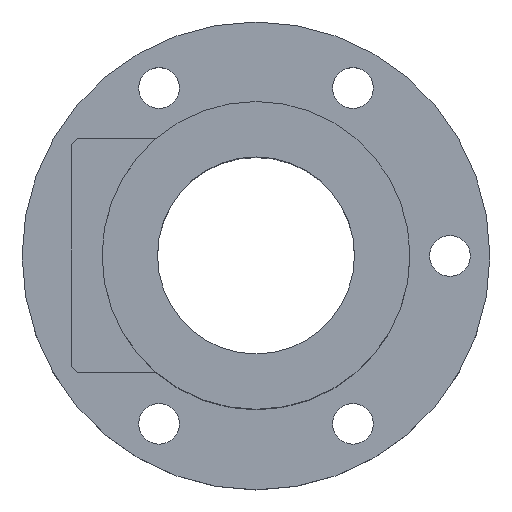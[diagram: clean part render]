
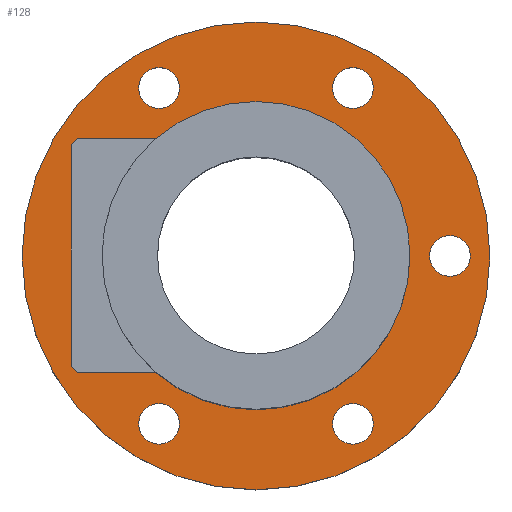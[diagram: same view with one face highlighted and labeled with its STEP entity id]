
A CAD part, top view. The second image highlights one B-rep face of the part: STEP entity #128.
In plain terms, the highlighted planar face has unit normal (0, 0, 1).
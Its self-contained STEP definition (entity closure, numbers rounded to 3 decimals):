
#97=PLANE('',#515);
#112=FACE_OUTER_BOUND('',#251,.T.);
#128=ADVANCED_FACE('',(#203,#204,#205,#112,#206,#207,#208),#97,.T.);
#203=FACE_BOUND('',#248,.T.);
#204=FACE_BOUND('',#249,.T.);
#205=FACE_BOUND('',#250,.T.);
#206=FACE_BOUND('',#252,.T.);
#207=FACE_BOUND('',#253,.T.);
#208=FACE_BOUND('',#254,.T.);
#248=EDGE_LOOP('',(#311));
#249=EDGE_LOOP('',(#312));
#250=EDGE_LOOP('',(#313));
#251=EDGE_LOOP('',(#314));
#252=EDGE_LOOP('',(#315));
#253=EDGE_LOOP('',(#316));
#254=EDGE_LOOP('',(#317));
#311=ORIENTED_EDGE('',*,*,#437,.F.);
#312=ORIENTED_EDGE('',*,*,#438,.F.);
#313=ORIENTED_EDGE('',*,*,#432,.F.);
#314=ORIENTED_EDGE('',*,*,#439,.T.);
#315=ORIENTED_EDGE('',*,*,#440,.F.);
#316=ORIENTED_EDGE('',*,*,#441,.F.);
#317=ORIENTED_EDGE('',*,*,#442,.F.);
#394=VERTEX_POINT('',#694);
#399=VERTEX_POINT('',#705);
#400=VERTEX_POINT('',#707);
#401=VERTEX_POINT('',#709);
#402=VERTEX_POINT('',#711);
#403=VERTEX_POINT('',#713);
#404=VERTEX_POINT('',#715);
#432=EDGE_CURVE('',#394,#394,#476,.T.);
#437=EDGE_CURVE('',#399,#399,#479,.T.);
#438=EDGE_CURVE('',#400,#400,#480,.T.);
#439=EDGE_CURVE('',#401,#401,#481,.T.);
#440=EDGE_CURVE('',#402,#402,#482,.T.);
#441=EDGE_CURVE('',#403,#403,#483,.T.);
#442=EDGE_CURVE('',#404,#404,#484,.T.);
#476=CIRCLE('',#505,25.);
#479=CIRCLE('',#509,3.3);
#480=CIRCLE('',#510,3.3);
#481=CIRCLE('',#511,38.);
#482=CIRCLE('',#512,3.3);
#483=CIRCLE('',#513,3.3);
#484=CIRCLE('',#514,3.3);
#505=AXIS2_PLACEMENT_3D('',#693,#564,#565);
#509=AXIS2_PLACEMENT_3D('',#704,#574,#575);
#510=AXIS2_PLACEMENT_3D('',#706,#576,#577);
#511=AXIS2_PLACEMENT_3D('',#708,#578,#579);
#512=AXIS2_PLACEMENT_3D('',#710,#580,#581);
#513=AXIS2_PLACEMENT_3D('',#712,#582,#583);
#514=AXIS2_PLACEMENT_3D('',#714,#584,#585);
#515=AXIS2_PLACEMENT_3D('',#716,#586,#587);
#564=DIRECTION('',(0.,0.,1.));
#565=DIRECTION('',(1.,0.,0.));
#574=DIRECTION('',(0.,0.,1.));
#575=DIRECTION('',(-0.5,-0.866,0.));
#576=DIRECTION('',(0.,0.,1.));
#577=DIRECTION('',(0.5,0.866,0.));
#578=DIRECTION('',(0.,0.,1.));
#579=DIRECTION('',(1.,0.,0.));
#580=DIRECTION('',(0.,0.,1.));
#581=DIRECTION('',(1.,0.,0.));
#582=DIRECTION('',(0.,0.,1.));
#583=DIRECTION('',(-1.,0.,0.));
#584=DIRECTION('',(0.,0.,1.));
#585=DIRECTION('',(0.5,-0.866,0.));
#586=DIRECTION('',(0.,0.,1.));
#587=DIRECTION('',(1.,0.,0.));
#693=CARTESIAN_POINT('',(0.,0.,12.));
#694=CARTESIAN_POINT('',(25.,0.,12.));
#704=CARTESIAN_POINT('',(15.75,-27.28,12.));
#705=CARTESIAN_POINT('',(14.1,-30.138,12.));
#706=CARTESIAN_POINT('',(-15.75,27.28,12.));
#707=CARTESIAN_POINT('',(-14.1,30.138,12.));
#708=CARTESIAN_POINT('',(0.,0.,12.));
#709=CARTESIAN_POINT('',(38.,0.,12.));
#710=CARTESIAN_POINT('',(15.75,27.28,12.));
#711=CARTESIAN_POINT('',(19.05,27.28,12.));
#712=CARTESIAN_POINT('',(-15.75,-27.28,12.));
#713=CARTESIAN_POINT('',(-19.05,-27.28,12.));
#714=CARTESIAN_POINT('',(31.5,0.,12.));
#715=CARTESIAN_POINT('',(33.15,-2.858,12.));
#716=CARTESIAN_POINT('',(0.,0.,12.));
